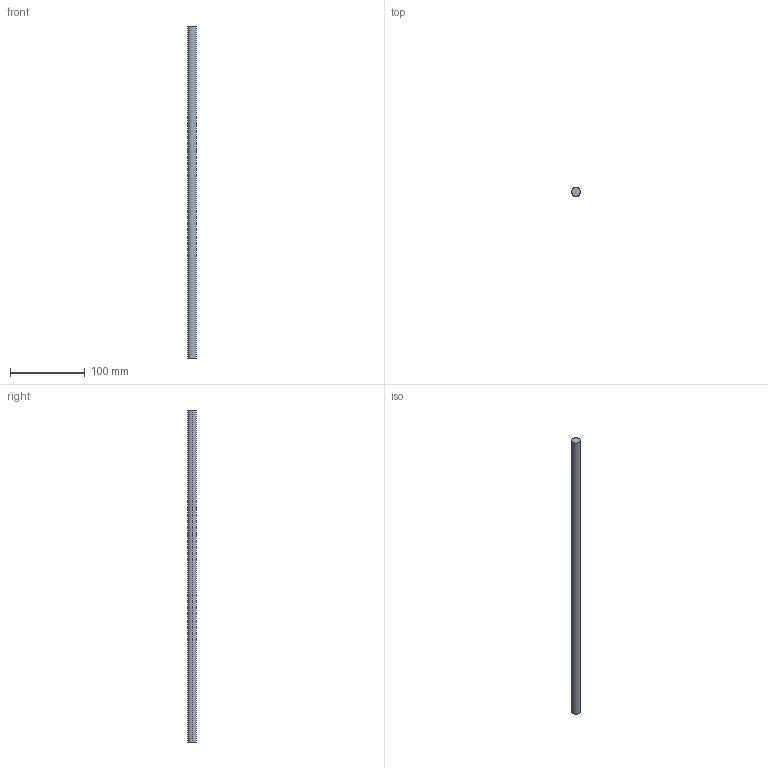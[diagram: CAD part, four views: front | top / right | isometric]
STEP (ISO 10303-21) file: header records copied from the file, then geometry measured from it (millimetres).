
FILE_DESCRIPTION (( 'STEP AP214' ), '1' );
FILE_NAME ('Magic Reling quer - S16_S17 - 550.step', '2010-09-07T14:56:07', ( 'grass' ), ( '' ), 'SwSTEP 2.0', 'SolidWorks 2010', '' );
FILE_SCHEMA (( 'AUTOMOTIVE_DESIGN' ));
Length unit declared in the file: millimetre
Products named in the file (1): Magic Reling quer - S16_S17 - 550
Bounding box: 12 x 12 x 445 mm (x, y, z)
Volume: 50328.3 mm3; surface area: 17002.3 mm2
Topology: 1 solids, 1 shells, 4 faces, 6 edges, 4 vertices
Faces by surface type: cylinder 2, plane 2
Entity records: 128 total; most frequent: DIRECTION 20, CARTESIAN_POINT 15, ORIENTED_EDGE 12, AXIS2_PLACEMENT_3D 9, EDGE_CURVE 6, EDGE_LOOP 4, VERTEX_POINT 4, ADVANCED_FACE 4
